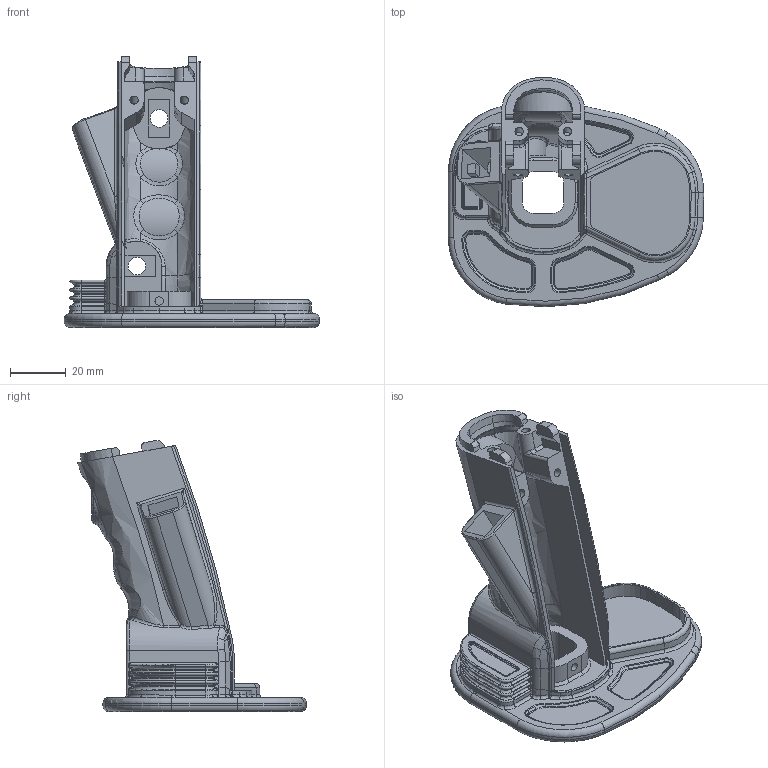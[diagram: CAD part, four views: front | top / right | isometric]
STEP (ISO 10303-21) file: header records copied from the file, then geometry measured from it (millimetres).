
FILE_DESCRIPTION(/* description */ (''),/* implementation_level */ '2;1');
FILE_NAME(/* name */ 'LAST_Grip 04.stp',/* time_stamp */ '2025-11-19T21:10:04+09:00',/* author */ (''),/* organization */ (''),/* preprocessor_version */ 'ST-DEVELOPER v11',/* originating_system */ 'SIEMENS PLM Software NX 7.5',/* authorisation */ '');
FILE_SCHEMA (('CONFIG_CONTROL_DESIGN'));
Length unit declared in the file: millimetre
Products named in the file (1): gyun8741ynve
Bounding box: 91.55 x 82.15 x 97.18 mm (x, y, z)
Volume: 62417 mm3; surface area: 34908.9 mm2
Topology: 1 solids, 1 shells, 720 faces, 1749 edges, 1033 vertices
Faces by surface type: bspline 292, cylinder 159, plane 155, torus 75, cone 29, extrusion 6, sphere 4
Full cylindrical faces by diameter (mm): 3 x5, 6.32 x2
Entity records: 29180 total; most frequent: CARTESIAN_POINT 14223, ORIENTED_EDGE 3458, DIRECTION 2624, EDGE_CURVE 1729, AXIS2_PLACEMENT_3D 1033, VERTEX_POINT 1030, EDGE_LOOP 749, ADVANCED_FACE 720
